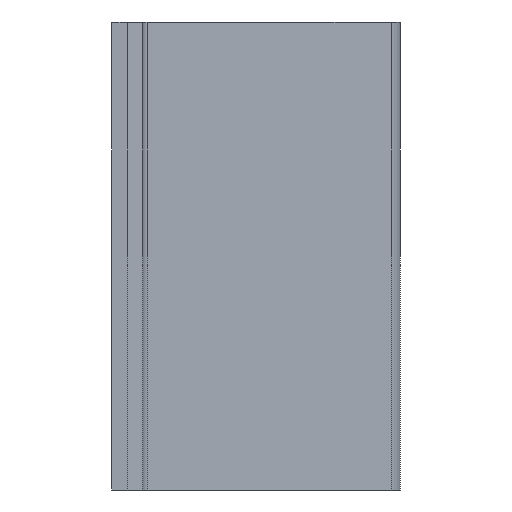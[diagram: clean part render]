
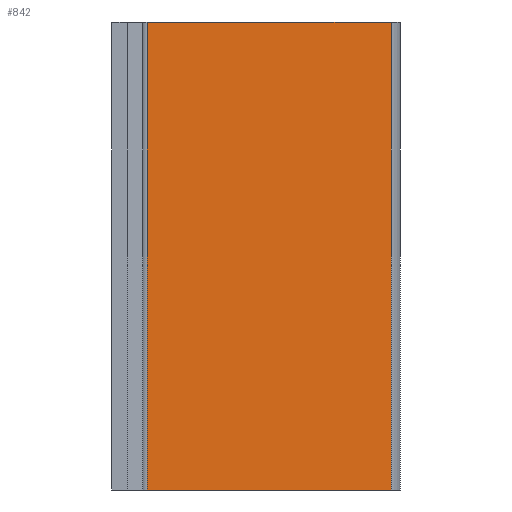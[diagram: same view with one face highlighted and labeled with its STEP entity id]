
A CAD part, front view. The second image highlights one B-rep face of the part: STEP entity #842.
In plain terms, the highlighted planar face has unit normal (0.707, -0.707, 0).
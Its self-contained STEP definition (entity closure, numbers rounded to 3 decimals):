
#784=CARTESIAN_POINT('',(17.328,-10.828,30.0));
#785=VERTEX_POINT('',#784);
#793=CARTESIAN_POINT('',(17.328,-10.828,-30.0));
#794=VERTEX_POINT('',#793);
#795=CARTESIAN_POINT('',(17.328,-10.828,-30.0));
#796=DIRECTION('',(0.0,0.0,1.0));
#797=VECTOR('',#796,60.0);
#798=LINE('',#795,#797);
#799=EDGE_CURVE('',#794,#785,#798,.T.);
#812=CARTESIAN_POINT('',(17.328,-10.828,-30.0));
#813=DIRECTION('',(0.707,-0.707,0.0));
#814=DIRECTION('',(0.0,0.0,-1.0));
#815=AXIS2_PLACEMENT_3D('',#812,#813,#814);
#816=PLANE('',#815);
#817=CARTESIAN_POINT('',(-13.914,-42.071,30.0));
#818=VERTEX_POINT('',#817);
#819=CARTESIAN_POINT('',(17.328,-10.828,30.0));
#820=DIRECTION('',(-0.707,-0.707,0.0));
#821=VECTOR('',#820,44.184);
#822=LINE('',#819,#821);
#823=EDGE_CURVE('',#785,#818,#822,.T.);
#824=ORIENTED_EDGE('',*,*,#823,.T.);
#825=CARTESIAN_POINT('',(-13.914,-42.071,-30.0));
#826=VERTEX_POINT('',#825);
#827=CARTESIAN_POINT('',(-13.914,-42.071,-30.0));
#828=DIRECTION('',(0.0,0.0,1.0));
#829=VECTOR('',#828,60.0);
#830=LINE('',#827,#829);
#831=EDGE_CURVE('',#826,#818,#830,.T.);
#832=ORIENTED_EDGE('',*,*,#831,.F.);
#833=CARTESIAN_POINT('',(-13.914,-42.071,-30.0));
#834=DIRECTION('',(0.707,0.707,0.0));
#835=VECTOR('',#834,44.184);
#836=LINE('',#833,#835);
#837=EDGE_CURVE('',#826,#794,#836,.T.);
#838=ORIENTED_EDGE('',*,*,#837,.T.);
#839=ORIENTED_EDGE('',*,*,#799,.T.);
#840=EDGE_LOOP('',(#824,#832,#838,#839));
#841=FACE_OUTER_BOUND('',#840,.T.);
#842=ADVANCED_FACE('',(#841),#816,.T.);
